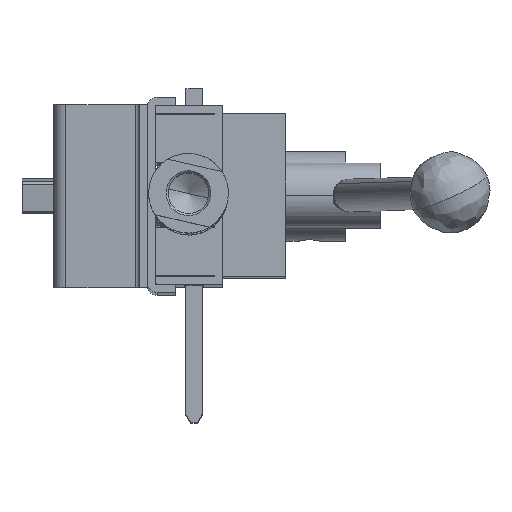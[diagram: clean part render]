
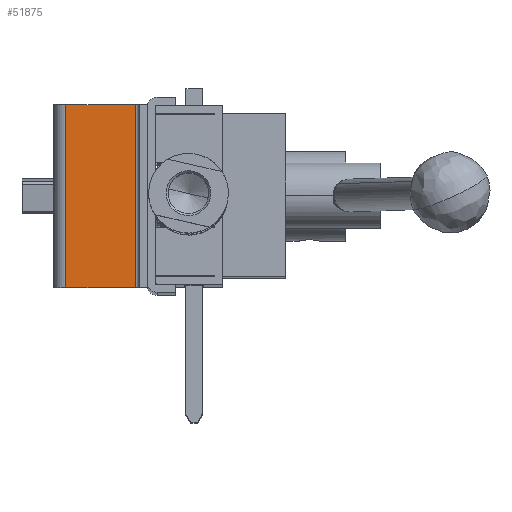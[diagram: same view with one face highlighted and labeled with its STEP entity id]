
A CAD part, left-side view. The second image highlights one B-rep face of the part: STEP entity #51875.
In plain terms, the highlighted planar face has unit normal (-1, 0, 0) as drawn and (0, -1, 0) by its records, which use the part's own axes.
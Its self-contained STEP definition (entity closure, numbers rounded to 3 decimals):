
#13750 = DIRECTION ( 'NONE',  ( 0., 0., 1. ) ) ;
#13753 = DIRECTION ( 'NONE',  ( 0., 0., -1. ) ) ;
#13754 = VECTOR ( 'NONE', #13753, 1000. ) ;
#13755 = VECTOR ( 'NONE', #13750, 1000. ) ;
#13761 = CARTESIAN_POINT ( 'NONE',  ( 18., -2., 45. ) ) ;
#13762 = LINE ( 'NONE', #13761, #13754 ) ;
#13770 = CARTESIAN_POINT ( 'NONE',  ( 18., -2., 45. ) ) ;
#13775 = CARTESIAN_POINT ( 'NONE',  ( 1., -2., 0. ) ) ;
#13777 = CARTESIAN_POINT ( 'NONE',  ( 1., -2., 45. ) ) ;
#13778 = LINE ( 'NONE', #13777, #13755 ) ;
#13779 = CARTESIAN_POINT ( 'NONE',  ( 1., -2., 45. ) ) ;
#13780 = CARTESIAN_POINT ( 'NONE',  ( 18., -2., 0. ) ) ;
#13916 = DIRECTION ( 'NONE',  ( -1., 0., 0. ) ) ;
#13917 = VECTOR ( 'NONE', #13916, 1000. ) ;
#13923 = CARTESIAN_POINT ( 'NONE',  ( 0., -2., 0. ) ) ;
#13924 = LINE ( 'NONE', #13923, #13917 ) ;
#13959 = VECTOR ( 'NONE', #14001, 1000. ) ;
#13960 = CARTESIAN_POINT ( 'NONE',  ( 0., -2., 45. ) ) ;
#13987 = FACE_OUTER_BOUND ( 'NONE', #51742, .T. ) ;
#14001 = DIRECTION ( 'NONE',  ( 1., 0., 0. ) ) ;
#14007 = LINE ( 'NONE', #13960, #13959 ) ;
#14055 = PLANE ( 'NONE',  #14088 ) ;
#14085 = DIRECTION ( 'NONE',  ( 0., 0., 1. ) ) ;
#14086 = DIRECTION ( 'NONE',  ( 0., 1., 0. ) ) ;
#14087 = CARTESIAN_POINT ( 'NONE',  ( 0., -2., 45. ) ) ;
#14088 = AXIS2_PLACEMENT_3D ( 'NONE', #14087, #14086, #14085 ) ;
#51703 = VERTEX_POINT ( 'NONE', #13775 ) ;
#51711 = VERTEX_POINT ( 'NONE', #13770 ) ;
#51714 = EDGE_CURVE ( 'NONE', #51711, #51759, #13762, .T. ) ;
#51736 = ORIENTED_EDGE ( 'NONE', *, *, #51714, .F. ) ;
#51742 = EDGE_LOOP ( 'NONE', ( #51736, #51815, #51745, #51784 ) ) ;
#51745 = ORIENTED_EDGE ( 'NONE', *, *, #51753, .F. ) ;
#51749 = VERTEX_POINT ( 'NONE', #13779 ) ;
#51753 = EDGE_CURVE ( 'NONE', #51703, #51749, #13778, .T. ) ;
#51759 = VERTEX_POINT ( 'NONE', #13780 ) ;
#51784 = ORIENTED_EDGE ( 'NONE', *, *, #51798, .F. ) ;
#51798 = EDGE_CURVE ( 'NONE', #51759, #51703, #13924, .T. ) ;
#51815 = ORIENTED_EDGE ( 'NONE', *, *, #51851, .F. ) ;
#51851 = EDGE_CURVE ( 'NONE', #51749, #51711, #14007, .T. ) ;
#51875 = ADVANCED_FACE ( 'NONE', ( #13987 ), #14055, .F. ) ;
